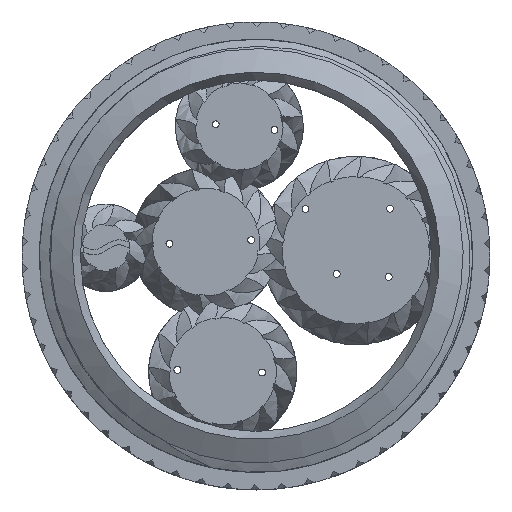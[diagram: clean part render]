
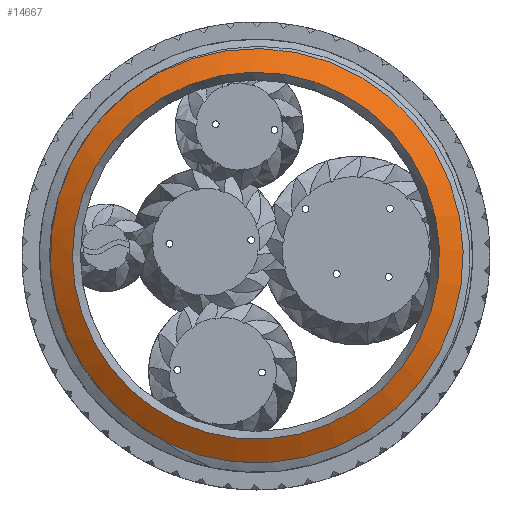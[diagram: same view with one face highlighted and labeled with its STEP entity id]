
A CAD part, top view. The second image highlights one B-rep face of the part: STEP entity #14667.
In plain terms, the highlighted conical face has half-angle 60 degrees and reference radius 29.393 mm.
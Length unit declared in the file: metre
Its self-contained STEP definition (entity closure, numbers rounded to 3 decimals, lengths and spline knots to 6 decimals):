
#1660=CIRCLE('',#15524,0.033176);
#1715=CIRCLE('',#15582,0.029393);
#5869=ORIENTED_EDGE('',*,*,#8356,.T.);
#5870=ORIENTED_EDGE('',*,*,#7830,.T.);
#5871=ORIENTED_EDGE('',*,*,#7827,.T.);
#5872=ORIENTED_EDGE('',*,*,#7834,.F.);
#5873=ORIENTED_EDGE('',*,*,#8681,.F.);
#7827=EDGE_CURVE('',#9708,#9707,#11109,.T.);
#7830=EDGE_CURVE('',#9709,#9708,#11111,.F.);
#7834=EDGE_CURVE('',#9710,#9707,#11115,.F.);
#8356=EDGE_CURVE('',#9710,#9709,#1660,.T.);
#8681=EDGE_CURVE('',#10317,#10317,#1715,.T.);
#9707=VERTEX_POINT('',#139741);
#9708=VERTEX_POINT('',#139757);
#9709=VERTEX_POINT('',#140038);
#9710=VERTEX_POINT('',#140163);
#10317=VERTEX_POINT('',#148985);
#11109=B_SPLINE_CURVE_WITH_KNOTS('',3,(#139742,#139743,#139744,#139745,
#139746,#139747,#139748,#139749,#139750,#139751,#139752,#139753,#139754,
#139755,#139756),.UNSPECIFIED.,.F.,.F.,(4,1,1,1,1,1,1,1,1,1,1,1,4),(0.058458,
0.065016,0.071574,0.078131,0.084689,
0.087968,0.091247,0.094526,0.097805,
0.101084,0.104363,0.107642,0.110921),
 .UNSPECIFIED.);
#11111=B_SPLINE_CURVE_WITH_KNOTS('',3,(#140033,#140034,#140035,#140036,
#140037),.UNSPECIFIED.,.F.,.F.,(4,1,4),(0.405229,0.409965,
0.414701),.UNSPECIFIED.);
#11115=B_SPLINE_CURVE_WITH_KNOTS('',3,(#140164,#140165,#140166,#140167),
 .UNSPECIFIED.,.F.,.F.,(4,4),(0.0075,0.007643),
 .UNSPECIFIED.);
#12642=EDGE_LOOP('',(#5869,#5870,#5871,#5872));
#12643=EDGE_LOOP('',(#5873));
#13618=FACE_BOUND('',#12642,.T.);
#13619=FACE_BOUND('',#12643,.T.);
#13922=CONICAL_SURFACE('',#15583,0.029393,1.047);
#14667=ADVANCED_FACE('',(#13618,#13619),#13922,.T.);
#15524=AXIS2_PLACEMENT_3D('',#146172,#16988,#16989);
#15582=AXIS2_PLACEMENT_3D('',#148984,#17104,#17105);
#15583=AXIS2_PLACEMENT_3D('',#148986,#17106,#17107);
#16988=DIRECTION('',(0.,0.,1.));
#16989=DIRECTION('',(-1.,0.,0.));
#17104=DIRECTION('',(0.,0.,1.));
#17105=DIRECTION('',(-1.,0.,0.));
#17106=DIRECTION('',(0.,0.,-1.));
#17107=DIRECTION('',(1.,0.,0.));
#139741=CARTESIAN_POINT('',(-0.01428,-0.029808,0.062871));
#139742=CARTESIAN_POINT('',(-0.029681,0.014543,0.062871));
#139743=CARTESIAN_POINT('',(-0.030623,0.01257,0.062884));
#139744=CARTESIAN_POINT('',(-0.032119,0.008424,0.062906));
#139745=CARTESIAN_POINT('',(-0.033102,0.002034,0.062931));
#139746=CARTESIAN_POINT('',(-0.03282,-0.004549,0.062949));
#139747=CARTESIAN_POINT('',(-0.031546,-0.009775,0.06296));
#139748=CARTESIAN_POINT('',(-0.0299,-0.013836,0.062964));
#139749=CARTESIAN_POINT('',(-0.028392,-0.016705,0.062966));
#139750=CARTESIAN_POINT('',(-0.026622,-0.019408,0.062964));
#139751=CARTESIAN_POINT('',(-0.024572,-0.021958,0.06296));
#139752=CARTESIAN_POINT('',(-0.02229,-0.024291,0.062951));
#139753=CARTESIAN_POINT('',(-0.019819,-0.026375,0.062937));
#139754=CARTESIAN_POINT('',(-0.017155,-0.028226,0.062915));
#139755=CARTESIAN_POINT('',(-0.015246,-0.0293,0.062895));
#139756=CARTESIAN_POINT('',(-0.01428,-0.029808,0.062871));
#139757=CARTESIAN_POINT('',(-0.029681,0.014543,0.062871));
#140033=CARTESIAN_POINT('',(-0.029681,0.014543,0.062871));
#140034=CARTESIAN_POINT('',(-0.029004,0.015972,0.06286));
#140035=CARTESIAN_POINT('',(-0.027428,0.018759,0.062835));
#140036=CARTESIAN_POINT('',(-0.02549,0.021263,0.062812));
#140037=CARTESIAN_POINT('',(-0.024425,0.022451,0.0628));
#140038=CARTESIAN_POINT('',(-0.024425,0.022451,0.0628));
#140163=CARTESIAN_POINT('',(-0.014334,-0.02992,0.0628));
#140164=CARTESIAN_POINT('',(-0.01428,-0.029808,0.062871));
#140165=CARTESIAN_POINT('',(-0.014298,-0.029846,0.062848));
#140166=CARTESIAN_POINT('',(-0.014316,-0.029883,0.062824));
#140167=CARTESIAN_POINT('',(-0.014334,-0.02992,0.0628));
#146172=CARTESIAN_POINT('',(0.,0.,0.0628));
#148984=CARTESIAN_POINT('',(0.,0.,0.064984));
#148985=CARTESIAN_POINT('',(-0.029393,0.,0.064984));
#148986=CARTESIAN_POINT('',(0.,0.,0.064984));
